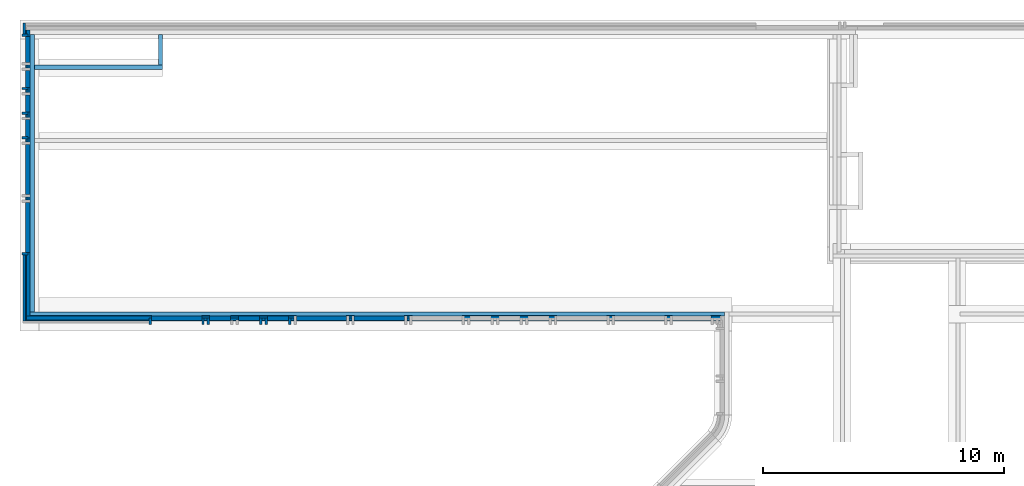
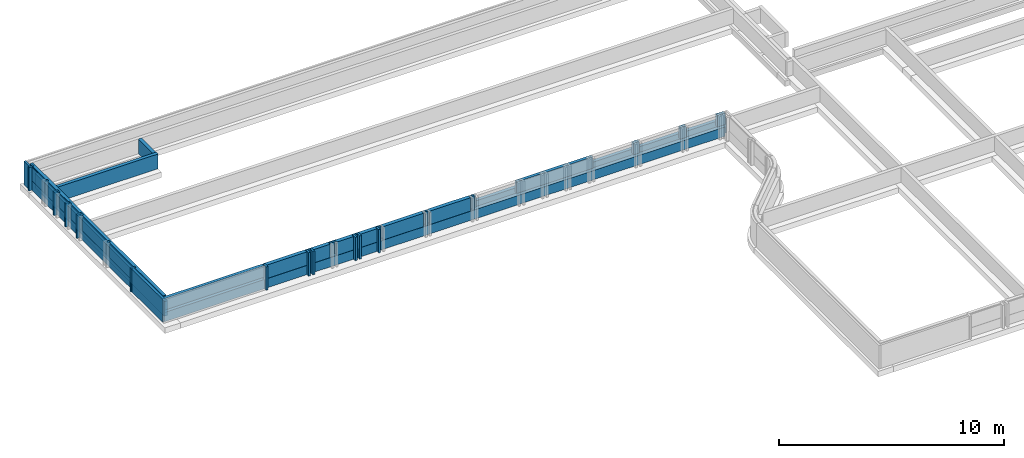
# One storey, part 6 of 15: 44 walls, 10 openings.
"""IFC2X3 building model written with IfcOpenShell, lengths in millimetres."""

from ifc_helpers import new_model, entity, si_unit, converted_unit, derived_unit, direction, frame, frame_2d, origin, place, context, subcontext, project, spatial, rectangle, extrude, material, layer, layer_set, layer_usage, type_object, element, save


model = new_model("IFC2X3")

# Units and contexts
model_context = context("Model", 3, precision=0.01, world=origin(), true_north=direction((6.123031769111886e-17, 1.0)))
body_context = subcontext(model_context, "Body", "Model", "MODEL_VIEW")
ifc_project = project(units=[si_unit("LENGTHUNIT", "METRE", prefix="MILLI"), si_unit("AREAUNIT", "SQUARE_METRE"), si_unit("VOLUMEUNIT", "CUBIC_METRE"), converted_unit("PLANEANGLEUNIT", "DEGREE", entity("IfcRatioMeasure", 0.017453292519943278), si_unit("PLANEANGLEUNIT", "RADIAN"), dimensions=[0, 0, 0, 0, 0, 0, 0]), si_unit("MASSUNIT", "GRAM", prefix="KILO"), derived_unit("MASSDENSITYUNIT", [(si_unit("MASSUNIT", "GRAM", prefix="KILO"), 1), (si_unit("LENGTHUNIT", "METRE"), -3)]), derived_unit("IONCONCENTRATIONUNIT", [(si_unit("MASSUNIT", "GRAM", prefix="KILO"), 1), (si_unit("LENGTHUNIT", "METRE"), -3)]), derived_unit("MOMENTOFINERTIAUNIT", [(si_unit("LENGTHUNIT", "METRE"), 4)]), si_unit("TIMEUNIT", "SECOND"), si_unit("FREQUENCYUNIT", "HERTZ"), si_unit("THERMODYNAMICTEMPERATUREUNIT", "DEGREE_CELSIUS"), derived_unit("THERMALTRANSMITTANCEUNIT", [(si_unit("MASSUNIT", "GRAM", prefix="KILO"), 1), (si_unit("THERMODYNAMICTEMPERATUREUNIT", "KELVIN"), -1), (si_unit("TIMEUNIT", "SECOND"), -3)]), derived_unit("THERMALCONDUCTANCEUNIT", [(si_unit("MASSUNIT", "GRAM", prefix="KILO"), 1), (si_unit("THERMODYNAMICTEMPERATUREUNIT", "KELVIN"), -1), (si_unit("TIMEUNIT", "SECOND"), -3), (si_unit("LENGTHUNIT", "METRE"), 1)]), derived_unit("VOLUMETRICFLOWRATEUNIT", [(si_unit("LENGTHUNIT", "METRE"), 3), (si_unit("TIMEUNIT", "SECOND"), -1)]), derived_unit("MASSFLOWRATEUNIT", [(si_unit("MASSUNIT", "GRAM", prefix="KILO"), 1), (si_unit("TIMEUNIT", "SECOND"), -1)]), derived_unit("ROTATIONALFREQUENCYUNIT", [(si_unit("TIMEUNIT", "SECOND"), -1)]), si_unit("ELECTRICCURRENTUNIT", "AMPERE"), si_unit("ELECTRICVOLTAGEUNIT", "VOLT"), si_unit("POWERUNIT", "WATT"), si_unit("FORCEUNIT", "NEWTON", prefix="KILO"), si_unit("ILLUMINANCEUNIT", "LUX"), si_unit("LUMINOUSFLUXUNIT", "LUMEN"), si_unit("LUMINOUSINTENSITYUNIT", "CANDELA"), derived_unit("USERDEFINED", [(si_unit("MASSUNIT", "GRAM", prefix="KILO"), -1), (si_unit("LENGTHUNIT", "METRE"), -2), (si_unit("TIMEUNIT", "SECOND"), 3), (si_unit("LUMINOUSFLUXUNIT", "LUMEN"), 1)]), derived_unit("USERDEFINED", [(si_unit("MASSUNIT", "GRAM", prefix="KILO"), 1), (si_unit("TIMEUNIT", "SECOND"), -3), (si_unit("LENGTHUNIT", "METRE"), 3), (si_unit("ELECTRICCURRENTUNIT", "AMPERE"), -2)]), derived_unit("SOUNDPOWERUNIT", [(si_unit("MASSUNIT", "GRAM", prefix="KILO"), 1), (si_unit("TIMEUNIT", "SECOND"), -3), (si_unit("LENGTHUNIT", "METRE"), 2)]), derived_unit("SOUNDPRESSUREUNIT", [(si_unit("MASSUNIT", "GRAM", prefix="KILO"), 1), (si_unit("LENGTHUNIT", "METRE"), -1), (si_unit("TIMEUNIT", "SECOND"), -2)]), derived_unit("LINEARVELOCITYUNIT", [(si_unit("LENGTHUNIT", "METRE"), 1), (si_unit("TIMEUNIT", "SECOND"), -1)]), si_unit("PRESSUREUNIT", "PASCAL"), derived_unit("USERDEFINED", [(si_unit("MASSUNIT", "GRAM", prefix="KILO"), 1), (si_unit("LENGTHUNIT", "METRE"), -2), (si_unit("TIMEUNIT", "SECOND"), -2)]), derived_unit("LINEARFORCEUNIT", [(si_unit("MASSUNIT", "GRAM", prefix="KILO"), 1), (si_unit("TIMEUNIT", "SECOND"), -2)]), derived_unit("PLANARFORCEUNIT", [(si_unit("MASSUNIT", "GRAM", prefix="KILO"), 1), (si_unit("LENGTHUNIT", "METRE"), -1), (si_unit("TIMEUNIT", "SECOND"), -2)]), derived_unit("SPECIFICHEATCAPACITYUNIT", [(si_unit("THERMODYNAMICTEMPERATUREUNIT", "KELVIN"), -1), (si_unit("LENGTHUNIT", "METRE"), 2), (si_unit("TIMEUNIT", "SECOND"), -2)]), derived_unit("HEATINGVALUEUNIT", [(si_unit("LENGTHUNIT", "METRE"), 2), (si_unit("TIMEUNIT", "SECOND"), -2)]), derived_unit("VAPORPERMEABILITYUNIT", [(si_unit("LENGTHUNIT", "METRE"), -1), (si_unit("TIMEUNIT", "SECOND"), 1)]), derived_unit("DYNAMICVISCOSITYUNIT", [(si_unit("MASSUNIT", "GRAM", prefix="KILO"), 1), (si_unit("TIMEUNIT", "SECOND"), -1), (si_unit("LENGTHUNIT", "METRE"), -1)]), derived_unit("THERMALEXPANSIONCOEFFICIENTUNIT", [(si_unit("THERMODYNAMICTEMPERATUREUNIT", "KELVIN"), -1)]), derived_unit("MODULUSOFELASTICITYUNIT", [(si_unit("MASSUNIT", "GRAM", prefix="KILO"), 1), (si_unit("LENGTHUNIT", "METRE"), -1), (si_unit("TIMEUNIT", "SECOND"), -2)]), derived_unit("ISOTHERMALMOISTURECAPACITYUNIT", [(si_unit("LENGTHUNIT", "METRE"), 3), (si_unit("MASSUNIT", "GRAM", prefix="KILO"), -1)]), derived_unit("MOISTUREDIFFUSIVITYUNIT", [(si_unit("TIMEUNIT", "SECOND"), -1), (si_unit("LENGTHUNIT", "METRE"), 2)])], contexts=[model_context])

# Site, building, storey
site_placement = place(None, frame((0.0, 300.0, 0.0)))
site = spatial("IfcSite", under=ifc_project, at=site_placement, Name="<Kadastrale nummers>", CompositionType="ELEMENT")
building_placement = place(site_placement, origin())
building = spatial("IfcBuilding", under=site, at=building_placement, CompositionType="ELEMENT")
storey_placement = place(building_placement, frame((0.0, 0.0, -1570.0)))
storey = spatial("IfcBuildingStorey", under=building, at=storey_placement, Name="-1 fundering", CompositionType="ELEMENT", Elevation=-1570.0)

# Walls
ifc_material_1 = material(Name="ISR_Metselwerk")
ifc_layer_1 = layer(ifc_material_1, 100.0)
ifc_layer_set_1 = layer_set([ifc_layer_1], Name="Basic Wall:21_DAT_metselwerk_100")
ifc_layer_usage_1 = layer_usage(ifc_layer_set_1, "AXIS2", "POSITIVE", -50.0)
wall_type_1 = type_object("IfcWallType", Name="Basic Wall:21_DAT_metselwerk_100", PredefinedType="STANDARD", material=ifc_layer_set_1)
wall_1_placement = place(storey_placement, frame((2675.0, 50175.0, 300.0), z_axis=(0.0, 0.0, 1.0), x_axis=(0.0, -1.0, 0.0)))
element("IfcWallStandardCase", 1, at=wall_1_placement, inside=storey, type_object=wall_type_1, material=ifc_layer_usage_1, Name="Basic Wall:21_DAT_metselwerk_100", ObjectType="Basic Wall:21_DAT_metselwerk_100", context=body_context, shape_type="SweptSolid", body=[
    extrude(rectangle(XDim=450.0000000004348, YDim=100.0, at=frame_2d((225.0000000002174, -2.4868995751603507e-14), x_axis=(-1.0, 0.0))), origin(), (0.0, 0.0, 1.0), 1270.0000000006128),
])
wall_2_placement = place(storey_placement, frame((2675.0, 40560.0, 300.0), z_axis=(0.0, 0.0, 1.0), x_axis=(0.0, -1.0, 0.0)))
element("IfcWallStandardCase", 2, at=wall_2_placement, inside=storey, type_object=wall_type_1, material=ifc_layer_usage_1, Name="Basic Wall:21_DAT_metselwerk_100", ObjectType="Basic Wall:21_DAT_metselwerk_100", context=body_context, shape_type="SweptSolid", body=[
    extrude(rectangle(XDim=2735.0000000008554, YDim=100.0, at=frame_2d((1367.5000000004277, -1.1368683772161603e-13), x_axis=(-1.0, 0.0))), origin(), (0.0, 0.0, 1.0), 1270.0000000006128),
])
wall_3_placement = place(storey_placement, frame((10140.0, 37890.0, 300.0)))
element("IfcWallStandardCase", 3, at=wall_3_placement, inside=storey, type_object=wall_type_1, material=ifc_layer_usage_1, Name="Basic Wall:21_DAT_metselwerk_100", ObjectType="Basic Wall:21_DAT_metselwerk_100", context=body_context, shape_type="SweptSolid", body=[
    extrude(rectangle(XDim=120.0000000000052, YDim=100.00000000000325, at=frame_2d((60.0000000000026, 0.0), x_axis=(-1.0, 0.0))), origin(), (0.0, 0.0, 1.0), 1270.0000000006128),
])
for number, where, z_axis, x_axis, name in (
    (4, (2790.0, 48435.0, 300.0), (0.0, 0.0, 1.0), (0.0, -1.0, 0.0), "Basic Wall:21_DAT_metselwerk_100"),
    (5, (2790.0, 47410.0, 300.0), (0.0, 0.0, 1.0), (0.0, -1.0, 0.0), "Basic Wall:21_DAT_metselwerk_100"),
    (6, (2790.0, 46385.0, 300.0), (0.0, 0.0, 1.0), (0.0, -1.0, 0.0), "Basic Wall:21_DAT_metselwerk_100"),
    (7, (2790.0, 45360.0, 300.0), (0.0, 0.0, 1.0), (0.0, -1.0, 0.0), "Basic Wall:21_DAT_metselwerk_100"),
):
    element("IfcWallStandardCase", number, at=place(storey_placement, frame(where, z_axis=z_axis, x_axis=x_axis)), inside=storey, type_object=wall_type_1, material=ifc_layer_usage_1, Name=name, ObjectType="Basic Wall:21_DAT_metselwerk_100", context=body_context, shape_type="SweptSolid", body=[
        extrude(rectangle(XDim=119.9999999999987, YDim=100.0, at=frame_2d((59.99999999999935, 1.1723955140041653e-13), x_axis=(-1.0, 0.0))), origin(), (0.0, 0.0, 1.0), 1270.0000000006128),
    ])
wall_4_placement = place(storey_placement, frame((2790.0, 42960.0, 300.0), z_axis=(0.0, 0.0, 1.0), x_axis=(0.0, -1.0, 0.0)))
element("IfcWallStandardCase", 8, at=wall_4_placement, inside=storey, type_object=wall_type_1, material=ifc_layer_usage_1, Name="Basic Wall:21_DAT_metselwerk_100", ObjectType="Basic Wall:21_DAT_metselwerk_100", context=body_context, shape_type="SweptSolid", body=[
    extrude(rectangle(XDim=119.99999999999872, YDim=100.0, at=frame_2d((59.99999999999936, 6.394884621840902e-14), x_axis=(-1.0, 0.0))), origin(), (0.0, 0.0, 1.0), 1270.0000000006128),
])

# Wall, opening
wall_5_placement = place(storey_placement, frame((11240.0, 37890.0, 300.0)))
wall_5 = element("IfcWallStandardCase", 9, at=wall_5_placement, inside=storey, type_object=wall_type_1, material=ifc_layer_usage_1, Name="Basic Wall:21_DAT_metselwerk_100", ObjectType="Basic Wall:21_DAT_metselwerk_100", context=body_context, shape_type="SweptSolid", body=[
    extrude(rectangle(XDim=320.00000000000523, YDim=100.00000000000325, at=frame_2d((160.00000000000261, 0.0), x_axis=(-1.0, 0.0))), origin(), (0.0, 0.0, 1.0), 1270.0000000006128),
])
opening_1_placement = place(storey_placement, frame((11240.0, 37890.0, 300.0)))
element("IfcOpeningElement", 10, at=opening_1_placement, cuts=wall_5, Name="Basic Wall:21_DAT_metselwerk_100:1", ObjectType="Opening", context=body_context, shape_type="SweptSolid", body=[
    extrude(rectangle(XDim=25.00000000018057, YDim=99.99999999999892, at=frame_2d((2.1662671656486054e-12, -1.0835776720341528e-12), x_axis=(1.0, 0.0))), frame((270.0, -37.499999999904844, 600.0), z_axis=(0.0, 0.0, 1.0), x_axis=(0.0, -1.0, 0.0)), (0.0, 0.0, 1.0), 625.0000000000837),
])

# Walls
wall_6_placement = place(storey_placement, frame((12540.0, 37890.0, 300.0)))
element("IfcWallStandardCase", 11, at=wall_6_placement, inside=storey, type_object=wall_type_1, material=ifc_layer_usage_1, Name="Basic Wall:21_DAT_metselwerk_100", ObjectType="Basic Wall:21_DAT_metselwerk_100", context=body_context, shape_type="SweptSolid", body=[
    extrude(rectangle(XDim=120.0000000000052, YDim=100.00000000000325, at=frame_2d((60.0000000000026, 0.0), x_axis=(-1.0, 0.0))), origin(), (0.0, 0.0, 1.0), 1270.0000000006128),
])
for number, where, name in (
    (12, (13740.0, 37890.0, 300.0), "Basic Wall:21_DAT_metselwerk_100"),
    (13, (16140.0, 37890.0, 300.0), "Basic Wall:21_DAT_metselwerk_100"),
    (14, (18540.0, 37890.0, 300.0), "Basic Wall:21_DAT_metselwerk_100"),
):
    element("IfcWallStandardCase", number, at=place(storey_placement, frame(where)), inside=storey, type_object=wall_type_1, material=ifc_layer_usage_1, Name=name, ObjectType="Basic Wall:21_DAT_metselwerk_100", context=body_context, shape_type="SweptSolid", body=[
        extrude(rectangle(XDim=120.00000000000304, YDim=100.00000000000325, at=frame_2d((60.00000000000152, 0.0), x_axis=(-1.0, 0.0))), origin(), (0.0, 0.0, 1.0), 1270.0000000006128),
    ])
ifc_layer_usage_2 = layer_usage(ifc_layer_set_1, "AXIS2", "NEGATIVE", 50.0)
for number, where, z_axis, x_axis, name in (
    (15, (2840.0, 47460.0, 300.0), (0.0, 0.0, 1.0), (-1.0, 0.0, 0.0), "Basic Wall:21_DAT_metselwerk_100"),
    (16, (2840.0, 46435.0, 300.0), (0.0, 0.0, 1.0), (-1.0, 0.0, 0.0), "Basic Wall:21_DAT_metselwerk_100"),
    (17, (2840.0, 45410.0, 300.0), (0.0, 0.0, 1.0), (-1.0, 0.0, 0.0), "Basic Wall:21_DAT_metselwerk_100"),
):
    element("IfcWallStandardCase", number, at=place(storey_placement, frame(where, z_axis=z_axis, x_axis=x_axis)), inside=storey, type_object=wall_type_1, material=ifc_layer_usage_2, Name=name, ObjectType="Basic Wall:21_DAT_metselwerk_100", context=body_context, shape_type="SweptSolid", body=[
        extrude(rectangle(XDim=264.9999999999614, YDim=99.9999999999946, at=frame_2d((132.4999999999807, -1.2789769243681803e-13), x_axis=(-1.0, 0.0))), origin(), (0.0, 0.0, 1.0), 1270.0000000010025),
    ])
wall_7_placement = place(storey_placement, frame((10090.0, 37940.0, 300.0), z_axis=(0.0, 0.0, 1.0), x_axis=(0.0, -1.0, 0.0)))
element("IfcWallStandardCase", 18, at=wall_7_placement, inside=storey, type_object=wall_type_1, material=ifc_layer_usage_2, Name="Basic Wall:21_DAT_metselwerk_100", ObjectType="Basic Wall:21_DAT_metselwerk_100", context=body_context, shape_type="SweptSolid", body=[
    extrude(rectangle(XDim=264.9999999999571, YDim=99.99999999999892, at=frame_2d((132.49999999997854, 9.947598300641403e-14), x_axis=(-1.0, 0.0))), origin(), (0.0, 0.0, 1.0), 1270.0000000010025),
])
wall_8_placement = place(storey_placement, frame((10310.0, 37940.0, 300.0), z_axis=(0.0, 0.0, 1.0), x_axis=(0.0, -1.0, 0.0)))
element("IfcWallStandardCase", 19, at=wall_8_placement, inside=storey, type_object=wall_type_1, material=ifc_layer_usage_2, Name="Basic Wall:21_DAT_metselwerk_100", ObjectType="Basic Wall:21_DAT_metselwerk_100", context=body_context, shape_type="SweptSolid", body=[
    extrude(rectangle(XDim=264.9999999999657, YDim=99.99999999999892, at=frame_2d((132.49999999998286, 1.0089706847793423e-12), x_axis=(-1.0, 0.0))), origin(), (0.0, 0.0, 1.0), 1270.0000000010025),
])
wall_9_placement = place(storey_placement, frame((12490.0, 37940.0, 300.0), z_axis=(0.0, 0.0, 1.0), x_axis=(0.0, -1.0, 0.0)))
element("IfcWallStandardCase", 20, at=wall_9_placement, inside=storey, type_object=wall_type_1, material=ifc_layer_usage_2, Name="Basic Wall:21_DAT_metselwerk_100", ObjectType="Basic Wall:21_DAT_metselwerk_100", context=body_context, shape_type="SweptSolid", body=[
    extrude(rectangle(XDim=264.9999999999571, YDim=99.99999999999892, at=frame_2d((132.49999999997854, 9.947598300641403e-14), x_axis=(-1.0, 0.0))), origin(), (0.0, 0.0, 1.0), 1270.0000000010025),
])
wall_10_placement = place(storey_placement, frame((12710.0, 37940.0, 300.0), z_axis=(0.0, 0.0, 1.0), x_axis=(0.0, -1.0, 0.0)))
element("IfcWallStandardCase", 21, at=wall_10_placement, inside=storey, type_object=wall_type_1, material=ifc_layer_usage_2, Name="Basic Wall:21_DAT_metselwerk_100", ObjectType="Basic Wall:21_DAT_metselwerk_100", context=body_context, shape_type="SweptSolid", body=[
    extrude(rectangle(XDim=264.9999999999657, YDim=99.99999999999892, at=frame_2d((132.49999999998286, 1.0089706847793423e-12), x_axis=(-1.0, 0.0))), origin(), (0.0, 0.0, 1.0), 1270.0000000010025),
])
wall_11_placement = place(storey_placement, frame((13690.0, 37940.0, 300.0), z_axis=(0.0, 0.0, 1.0), x_axis=(0.0, -1.0, 0.0)))
element("IfcWallStandardCase", 22, at=wall_11_placement, inside=storey, type_object=wall_type_1, material=ifc_layer_usage_2, Name="Basic Wall:21_DAT_metselwerk_100", ObjectType="Basic Wall:21_DAT_metselwerk_100", context=body_context, shape_type="SweptSolid", body=[
    extrude(rectangle(XDim=264.9999999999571, YDim=99.99999999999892, at=frame_2d((132.49999999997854, 9.947598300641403e-14), x_axis=(-1.0, 0.0))), origin(), (0.0, 0.0, 1.0), 1270.0000000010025),
])
wall_12_placement = place(storey_placement, frame((7910.0, 37940.0, 300.0), z_axis=(0.0, 0.0, 1.0), x_axis=(0.0, -1.0, 0.0)))
element("IfcWallStandardCase", 23, at=wall_12_placement, inside=storey, type_object=wall_type_1, material=ifc_layer_usage_2, Name="Basic Wall:21_DAT_metselwerk_100", ObjectType="Basic Wall:21_DAT_metselwerk_100", context=body_context, shape_type="SweptSolid", body=[
    extrude(rectangle(XDim=264.9999999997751, YDim=99.99999999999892, at=frame_2d((132.49999999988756, -2.0961010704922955e-13), x_axis=(-1.0, 0.0))), origin(), (0.0, 0.0, 1.0), 1270.0000000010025),
])
wall_13_placement = place(storey_placement, frame((2840.0, 49675.0, 300.0), z_axis=(0.0, 0.0, 1.0), x_axis=(-1.0, 0.0, 0.0)))
element("IfcWallStandardCase", 24, at=wall_13_placement, inside=storey, type_object=wall_type_1, material=ifc_layer_usage_2, Name="Basic Wall:21_DAT_metselwerk_100", ObjectType="Basic Wall:21_DAT_metselwerk_100", context=body_context, shape_type="SweptSolid", body=[
    extrude(rectangle(XDim=264.9999999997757, YDim=99.9999999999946, at=frame_2d((132.49999999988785, 7.176481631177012e-13), x_axis=(-1.0, 0.0))), origin(), (0.0, 0.0, 1.0), 1270.0000000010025),
])
wall_14_placement = place(storey_placement, frame((2840.0, 40610.0, 300.0), z_axis=(0.0, 0.0, 1.0), x_axis=(-1.0, 0.0, 0.0)))
element("IfcWallStandardCase", 25, at=wall_14_placement, inside=storey, type_object=wall_type_1, material=ifc_layer_usage_1, Name="Basic Wall:21_DAT_metselwerk_100", ObjectType="Basic Wall:21_DAT_metselwerk_100", context=body_context, shape_type="SweptSolid", body=[
    extrude(rectangle(XDim=264.9999999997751, YDim=99.9999999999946, at=frame_2d((132.49999999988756, 3.517186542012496e-13), x_axis=(-1.0, 0.0))), origin(), (0.0, 0.0, 1.0), 1270.0000000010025),
])
ifc_material_2 = material(Name="ISR_Gips")
ifc_layer_2 = layer(ifc_material_2, 1.0)
ifc_material_3 = material(Name="ISR_Kalkzandsteen")
ifc_layer_3 = layer(ifc_material_3, 173.0)
ifc_layer_4 = layer(ifc_material_2, 1.0)
ifc_layer_set_2 = layer_set([ifc_layer_2, ifc_layer_3, ifc_layer_4], Name="Basic Wall:28_DAT_kalkzandsteen_175mm")
ifc_layer_usage_3 = layer_usage(ifc_layer_set_2, "AXIS2", "NEGATIVE", 87.49999999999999)
wall_type_2 = type_object("IfcWallType", Name="Basic Wall:28_DAT_kalkzandsteen_175mm", PredefinedType="STANDARD", material=ifc_layer_set_2)
wall_15_placement = place(storey_placement, frame((31725.03691673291, 38112.4999999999, 300.0), z_axis=(0.0, 0.0, 1.0), x_axis=(-1.0, 0.0, 0.0)))
element("IfcWallStandardCase", 26, at=wall_15_placement, inside=storey, type_object=wall_type_2, material=ifc_layer_usage_3, Name="Basic Wall:28_DAT_kalkzandsteen_175mm", ObjectType="Basic Wall:28_DAT_kalkzandsteen_175mm", context=body_context, shape_type="SweptSolid", body=[
    extrude(rectangle(XDim=28800.03691673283, YDim=175.00000000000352, at=frame_2d((14400.018458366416, 0.0), x_axis=(-1.0, 0.0))), origin(), (0.0, 0.0, 1.0), 800.0000000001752),
])
wall_16_placement = place(storey_placement, frame((3012.50000000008, 38200.0, 300.0), z_axis=(0.0, 0.0, 1.0), x_axis=(0.0, 1.0, 0.0)))
element("IfcWallStandardCase", 27, at=wall_16_placement, inside=storey, type_object=wall_type_2, material=ifc_layer_usage_3, Name="Basic Wall:28_DAT_kalkzandsteen_175mm", ObjectType="Basic Wall:28_DAT_kalkzandsteen_175mm", context=body_context, shape_type="SweptSolid", body=[
    extrude(rectangle(XDim=11500.000000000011, YDim=175.00000000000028, at=frame_2d((5750.0000000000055, 1.2789769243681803e-13), x_axis=(-1.0, 0.0))), origin(), (0.0, 0.0, 1.0), 800.0000000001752),
])
wall_17_placement = place(storey_placement, frame((3100.0, 48342.49999999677, 300.0)))
element("IfcWallStandardCase", 28, at=wall_17_placement, inside=storey, type_object=wall_type_2, material=ifc_layer_usage_3, Name="Basic Wall:28_DAT_kalkzandsteen_175mm", ObjectType="Basic Wall:28_DAT_kalkzandsteen_175mm", context=body_context, shape_type="SweptSolid", body=[
    extrude(rectangle(XDim=5311.000000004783, YDim=174.99999999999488, at=frame_2d((2655.5000000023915, -3.197442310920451e-13), x_axis=(-1.0, 0.0))), origin(), (0.0, 0.0, 1.0), 800.0000000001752),
])
wall_18_placement = place(storey_placement, frame((8323.500000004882, 49700.0, 300.0), z_axis=(0.0, 0.0, 1.0), x_axis=(0.0, -1.0, 0.0)))
element("IfcWallStandardCase", 29, at=wall_18_placement, inside=storey, type_object=wall_type_2, material=ifc_layer_usage_3, Name="Basic Wall:28_DAT_kalkzandsteen_175mm", ObjectType="Basic Wall:28_DAT_kalkzandsteen_175mm", context=body_context, shape_type="SweptSolid", body=[
    extrude(rectangle(XDim=1270.0000000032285, YDim=174.9999999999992, at=frame_2d((635.0000000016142, -9.237055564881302e-14), x_axis=(-1.0, 0.0))), origin(), (0.0, 0.0, 1.0), 800.0000000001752),
])

# Wall, openings
ifc_material_4 = material(Name="ISR_Isolatie")
ifc_layer_5 = layer(ifc_material_4, 160.0)
ifc_layer_set_3 = layer_set([ifc_layer_5], Name="Basic Wall:21_DAT_isolatie minerale wol_160")
ifc_layer_usage_4 = layer_usage(ifc_layer_set_3, "AXIS2", "NEGATIVE", 80.0)
wall_type_3 = type_object("IfcWallType", Name="Basic Wall:21_DAT_isolatie minerale wol_160", PredefinedType="STANDARD", material=ifc_layer_set_3)
wall_19_placement = place(storey_placement, frame((31565.036916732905, 37945.0, 900.0), z_axis=(0.0, 0.0, 1.0), x_axis=(-1.0, 0.0, 0.0)))
wall_19 = element("IfcWallStandardCase", 30, at=wall_19_placement, inside=storey, type_object=wall_type_3, material=ifc_layer_usage_4, Name="Basic Wall:21_DAT_isolatie minerale wol_160", ObjectType="Basic Wall:21_DAT_isolatie minerale wol_160", context=body_context, shape_type="SweptSolid", body=[
    extrude(rectangle(XDim=28800.036916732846, YDim=159.99999999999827, at=frame_2d((14400.018458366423, 0.0), x_axis=(-1.0, 0.0))), origin(), (0.0, 0.0, 1.0), 625.0000000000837),
])
opening_2_placement = place(wall_19_placement, origin())
element("IfcOpeningElement", 31, at=opening_2_placement, cuts=wall_19, Name="Basic Wall:21_DAT_isolatie minerale wol_160", ObjectType="Opening", context=body_context, shape_type="SweptSolid", body=[
    extrude(rectangle(XDim=730.0000000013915, YDim=2079.999999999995, at=frame_2d((0.0, 0.0), x_axis=(0.0, 1.0))), frame((14165.036916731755, -232.40000000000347, 265.0), z_axis=(0.0, 1.0, 0.0), x_axis=(-1.0, 0.0, 0.0)), (0.0, 0.0, 1.0), 464.7999999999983),
])
opening_3_placement = place(wall_19_placement, origin())
element("IfcOpeningElement", 32, at=opening_3_placement, cuts=wall_19, Name="Basic Wall:21_DAT_isolatie minerale wol_160", ObjectType="Opening", context=body_context, shape_type="SweptSolid", body=[
    extrude(rectangle(XDim=725.0000000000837, YDim=1594.999999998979, at=frame_2d((0.0, 0.0), x_axis=(0.0, 1.0))), frame((1207.5369167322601, -232.3999999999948, 262.50000000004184), z_axis=(0.0, 1.0, 0.0), x_axis=(-1.0, 0.0, 0.0)), (0.0, 0.0, 1.0), 464.7999999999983),
])
opening_4_placement = place(wall_19_placement, origin())
element("IfcOpeningElement", 33, at=opening_4_placement, cuts=wall_19, Name="Basic Wall:21_DAT_isolatie minerale wol_160", ObjectType="Opening", context=body_context, shape_type="SweptSolid", body=[
    extrude(rectangle(XDim=730.0000000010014, YDim=2080.0000000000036, at=frame_2d((4.320099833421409e-12, 0.0), x_axis=(0.0, 1.0))), frame((3365.0369167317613, -232.40000000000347, 265.0), z_axis=(0.0, 1.0, 0.0), x_axis=(-1.0, 0.0, 0.0)), (0.0, 0.0, 1.0), 464.7999999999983),
])
opening_5_placement = place(wall_19_placement, origin())
element("IfcOpeningElement", 34, at=opening_5_placement, cuts=wall_19, Name="Basic Wall:21_DAT_isolatie minerale wol_160", ObjectType="Opening", context=body_context, shape_type="SweptSolid", body=[
    extrude(rectangle(XDim=730.0000000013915, YDim=2079.999999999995, at=frame_2d((0.0, 0.0), x_axis=(0.0, 1.0))), frame((5765.03691673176, -232.39999999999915, 265.0), z_axis=(0.0, 1.0, 0.0), x_axis=(-1.0, 0.0, 0.0)), (0.0, 0.0, 1.0), 464.7999999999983),
])
opening_6_placement = place(wall_19_placement, origin())
element("IfcOpeningElement", 35, at=opening_6_placement, cuts=wall_19, Name="Basic Wall:21_DAT_isolatie minerale wol_160", ObjectType="Opening", context=body_context, shape_type="SweptSolid", body=[
    extrude(rectangle(XDim=730.0000000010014, YDim=2080.0000000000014, at=frame_2d((1.1368683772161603e-12, 0.0), x_axis=(0.0, 1.0))), frame((11765.036916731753, -232.3999999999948, 265.0), z_axis=(0.0, 1.0, 0.0), x_axis=(-1.0, 0.0, 0.0)), (0.0, 0.0, 1.0), 464.7999999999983),
])
opening_7_placement = place(wall_19_placement, origin())
element("IfcOpeningElement", 36, at=opening_7_placement, cuts=wall_19, Name="Basic Wall:21_DAT_isolatie minerale wol_160", ObjectType="Opening", context=body_context, shape_type="SweptSolid", body=[
    extrude(rectangle(XDim=730.0000000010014, YDim=2079.999999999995, at=frame_2d((0.0, 0.0), x_axis=(0.0, 1.0))), frame((16565.036916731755, -232.39999999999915, 265.0), z_axis=(0.0, 1.0, 0.0), x_axis=(-1.0, 0.0, 0.0)), (0.0, 0.0, 1.0), 464.7999999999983),
])
opening_8_placement = place(wall_19_placement, origin())
element("IfcOpeningElement", 37, at=opening_8_placement, cuts=wall_19, Name="Basic Wall:21_DAT_isolatie minerale wol_160", ObjectType="Opening", context=body_context, shape_type="SweptSolid", body=[
    extrude(rectangle(XDim=725.0000000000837, YDim=879.9999999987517, at=frame_2d((0.0, 0.0), x_axis=(0.0, 1.0))), frame((20765.03691673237, -232.39999999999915, 262.50000000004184), z_axis=(0.0, 1.0, 0.0), x_axis=(-1.0, 0.0, 0.0)), (0.0, 0.0, 1.0), 464.7999999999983),
])
opening_9_placement = place(wall_19_placement, origin())
element("IfcOpeningElement", 38, at=opening_9_placement, cuts=wall_19, Name="Basic Wall:21_DAT_isolatie minerale wol_160", ObjectType="Opening", context=body_context, shape_type="SweptSolid", body=[
    extrude(rectangle(XDim=730.0000000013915, YDim=2080.000000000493, at=frame_2d((0.0, 0.0), x_axis=(0.0, 1.0))), frame((22565.03691673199, -232.39999999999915, 265.0), z_axis=(0.0, 1.0, 0.0), x_axis=(-1.0, 0.0, 0.0)), (0.0, 0.0, 1.0), 464.7999999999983),
])

# Wall, opening
wall_20_placement = place(storey_placement, frame((2845.0, 38025.0, 900.0), z_axis=(0.0, 0.0, 1.0), x_axis=(0.0, 1.0, 0.0)))
wall_20 = element("IfcWallStandardCase", 39, at=wall_20_placement, inside=storey, type_object=wall_type_3, material=ifc_layer_usage_4, Name="Basic Wall:21_DAT_isolatie minerale wol_160", ObjectType="Basic Wall:21_DAT_isolatie minerale wol_160", context=body_context, shape_type="SweptSolid", body=[
    extrude(rectangle(XDim=11849.999999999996, YDim=160.00000000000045, at=frame_2d((5924.999999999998, 0.0), x_axis=(-1.0, 0.0))), origin(), (0.0, 0.0, 1.0), 670.0000000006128),
])
opening_10_placement = place(wall_20_placement, origin())
element("IfcOpeningElement", 40, at=opening_10_placement, cuts=wall_20, Name="Basic Wall:21_DAT_isolatie minerale wol_160", ObjectType="Opening", context=body_context, shape_type="SweptSolid", body=[
    extrude(rectangle(XDim=730.0000000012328, YDim=1090.0000000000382, at=frame_2d((4.376943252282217e-12, 0.0), x_axis=(0.0, 1.0))), frame((11055.0, -232.39999999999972, 265.0), z_axis=(0.0, 1.0, 0.0), x_axis=(-1.0, 0.0, 0.0)), (0.0, 0.0, 1.0), 464.7999999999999),
])

# Walls
ifc_material_5 = material(Name="ISR_Beton_prefab")
ifc_layer_6 = layer(ifc_material_5, 15.0)
ifc_layer_7 = layer(ifc_material_4, 175.0)
ifc_layer_set_4 = layer_set([ifc_layer_6, ifc_layer_7], Name="Basic Wall:21_DAT_gevelplint 175")
ifc_layer_usage_5 = layer_usage(ifc_layer_set_4, "AXIS2", "POSITIVE", -95.00000000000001)
wall_type_4 = type_object("IfcWallType", Name="Basic Wall:21_DAT_gevelplint 175", PredefinedType="STANDARD", material=ifc_layer_set_4)
wall_21_placement = place(storey_placement, frame((2830.0, 49625.0, 800.0), z_axis=(0.0, 0.0, 1.0), x_axis=(0.0, -1.0, 0.0)))
element("IfcWallStandardCase", 41, at=wall_21_placement, inside=storey, type_object=wall_type_4, material=ifc_layer_usage_5, Name="Basic Wall:21_DAT_gevelplint 175", ObjectType="Basic Wall:21_DAT_gevelplint 175", context=body_context, shape_type="SweptSolid", body=[
    extrude(rectangle(XDim=1090.0000000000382, YDim=190.0000000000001, at=frame_2d((545.0000000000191, 0.0), x_axis=(-1.0, 0.0))), origin(), (0.0, 0.0, 1.0), 730.0000000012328),
])
wall_22_placement = place(storey_placement, frame((16360.0, 37930.0, 800.0)))
element("IfcWallStandardCase", 42, at=wall_22_placement, inside=storey, type_object=wall_type_4, material=ifc_layer_usage_5, Name="Basic Wall:21_DAT_gevelplint 175", ObjectType="Basic Wall:21_DAT_gevelplint 175", context=body_context, shape_type="SweptSolid", body=[
    extrude(rectangle(XDim=2079.999999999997, YDim=190.0000000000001, at=frame_2d((1039.9999999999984, 1.2647660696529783e-12), x_axis=(-1.0, 0.0))), origin(), (0.0, 0.0, 1.0), 730.0000000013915),
])
wall_23_placement = place(storey_placement, frame((10360.0, 37930.0, 800.0)))
element("IfcWallStandardCase", 43, at=wall_23_placement, inside=storey, type_object=wall_type_4, material=ifc_layer_usage_5, Name="Basic Wall:21_DAT_gevelplint 175", ObjectType="Basic Wall:21_DAT_gevelplint 175", context=body_context, shape_type="SweptSolid", body=[
    extrude(rectangle(XDim=879.9999999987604, YDim=190.0000000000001, at=frame_2d((439.9999999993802, 0.0), x_axis=(-1.0, 0.0))), origin(), (0.0, 0.0, 1.0), 725.0000000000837),
])
wall_24_placement = place(storey_placement, frame((13960.0, 37930.0, 800.0)))
element("IfcWallStandardCase", 44, at=wall_24_placement, inside=storey, type_object=wall_type_4, material=ifc_layer_usage_5, Name="Basic Wall:21_DAT_gevelplint 175", ObjectType="Basic Wall:21_DAT_gevelplint 175", context=body_context, shape_type="SweptSolid", body=[
    extrude(rectangle(XDim=2080.0000000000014, YDim=190.0000000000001, at=frame_2d((1040.0000000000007, 0.0), x_axis=(-1.0, 0.0))), origin(), (0.0, 0.0, 1.0), 730.0000000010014),
])
wall_25_placement = place(storey_placement, frame((2830.0, 45140.0, 800.0), z_axis=(0.0, 0.0, 1.0), x_axis=(0.0, -1.0, 0.0)))
element("IfcWallStandardCase", 45, at=wall_25_placement, inside=storey, type_object=wall_type_4, material=ifc_layer_usage_5, Name="Basic Wall:21_DAT_gevelplint 175", ObjectType="Basic Wall:21_DAT_gevelplint 175", context=body_context, shape_type="SweptSolid", body=[
    extrude(rectangle(XDim=2080.0000000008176, YDim=190.0000000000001, at=frame_2d((1040.0000000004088, 1.0658141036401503e-13), x_axis=(-1.0, 0.0))), origin(), (0.0, 0.0, 1.0), 730.0000000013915),
])
wall_26_placement = place(storey_placement, frame((7960.0, 37930.0, 800.0)))
element("IfcWallStandardCase", 46, at=wall_26_placement, inside=storey, type_object=wall_type_4, material=ifc_layer_usage_5, Name="Basic Wall:21_DAT_gevelplint 175", ObjectType="Basic Wall:21_DAT_gevelplint 175", context=body_context, shape_type="SweptSolid", body=[
    extrude(rectangle(XDim=2080.000000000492, YDim=190.0000000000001, at=frame_2d((1040.000000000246, 0.0), x_axis=(-1.0, 0.0))), origin(), (0.0, 0.0, 1.0), 730.0000000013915),
])
wall_27_placement = place(storey_placement, frame((2830.0013767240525, 48215.0, 800.0), z_axis=(0.0, 0.0, 1.0), x_axis=(0.0, -1.0, 0.0)))
element("IfcWallStandardCase", 47, at=wall_27_placement, inside=storey, type_object=wall_type_4, material=ifc_layer_usage_5, Name="Basic Wall:21_DAT_gevelplint 175", ObjectType="Basic Wall:21_DAT_gevelplint 175", context=body_context, shape_type="SweptSolid", body=[
    extrude(rectangle(XDim=704.9999999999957, YDim=190.0000000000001, at=frame_2d((352.49999999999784, 1.1368683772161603e-13), x_axis=(-1.0, 0.0))), origin(), (0.0, 0.0, 1.0), 730.0000000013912),
])
wall_28_placement = place(storey_placement, frame((2830.0013767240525, 47190.0, 800.0), z_axis=(0.0, 0.0, 1.0), x_axis=(0.0, -1.0, 0.0)))
element("IfcWallStandardCase", 48, at=wall_28_placement, inside=storey, type_object=wall_type_4, material=ifc_layer_usage_5, Name="Basic Wall:21_DAT_gevelplint 175", ObjectType="Basic Wall:21_DAT_gevelplint 175", context=body_context, shape_type="SweptSolid", body=[
    extrude(rectangle(XDim=704.999999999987, YDim=190.0000000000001, at=frame_2d((352.4999999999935, 1.1368683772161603e-13), x_axis=(-1.0, 0.0))), origin(), (0.0, 0.0, 1.0), 725.0000000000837),
])
wall_29_placement = place(storey_placement, frame((2830.0013767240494, 46165.0, 800.0), z_axis=(0.0, 0.0, 1.0), x_axis=(0.0, -1.0, 0.0)))
element("IfcWallStandardCase", 49, at=wall_29_placement, inside=storey, type_object=wall_type_4, material=ifc_layer_usage_5, Name="Basic Wall:21_DAT_gevelplint 175", ObjectType="Basic Wall:21_DAT_gevelplint 175", context=body_context, shape_type="SweptSolid", body=[
    extrude(rectangle(XDim=754.9999999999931, YDim=190.0000000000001, at=frame_2d((377.49999999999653, 1.0658141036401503e-13), x_axis=(-1.0, 0.0))), origin(), (0.0, 0.0, 1.0), 730.0000000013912),
])
wall_30_placement = place(storey_placement, frame((2830.0, 42740.0, 800.0), z_axis=(0.0, 0.0, 1.0), x_axis=(0.0, -1.0, 0.0)))
element("IfcWallStandardCase", 50, at=wall_30_placement, inside=storey, type_object=wall_type_4, material=ifc_layer_usage_5, Name="Basic Wall:21_DAT_gevelplint 175", ObjectType="Basic Wall:21_DAT_gevelplint 175", context=body_context, shape_type="SweptSolid", body=[
    extrude(rectangle(XDim=2079.9999999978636, YDim=190.0000000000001, at=frame_2d((1039.9999999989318, 2.2026824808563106e-13), x_axis=(-1.0, 0.0))), origin(), (0.0, 0.0, 1.0), 730.0000000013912),
])
wall_31_placement = place(storey_placement, frame((11560.0, 37930.0, 800.0)))
element("IfcWallStandardCase", 51, at=wall_31_placement, inside=storey, type_object=wall_type_4, material=ifc_layer_usage_5, Name="Basic Wall:21_DAT_gevelplint 175", ObjectType="Basic Wall:21_DAT_gevelplint 175", context=body_context, shape_type="SweptSolid", body=[
    extrude(rectangle(XDim=879.9999999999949, YDim=190.0000000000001, at=frame_2d((439.99999999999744, 0.0), x_axis=(-1.0, 0.0))), origin(), (0.0, 0.0, 1.0), 725.0000000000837),
])
wall_32_placement = place(storey_placement, frame((12760.0, 37930.0, 800.0)))
element("IfcWallStandardCase", 52, at=wall_32_placement, inside=storey, type_object=wall_type_4, material=ifc_layer_usage_5, Name="Basic Wall:21_DAT_gevelplint 175", ObjectType="Basic Wall:21_DAT_gevelplint 175", context=body_context, shape_type="SweptSolid", body=[
    extrude(rectangle(XDim=880.0000000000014, YDim=190.0000000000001, at=frame_2d((440.0000000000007, 0.0), x_axis=(-1.0, 0.0))), origin(), (0.0, 0.0, 1.0), 725.0000000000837),
])
ifc_material_6 = material(Name="ISR_Speci ihwg(1)")
ifc_layer_8 = layer(ifc_material_6, 195.0)
ifc_layer_set_5 = layer_set([ifc_layer_8], Name="Basic Wall:28_DAT_ihw specie")
ifc_layer_usage_6 = layer_usage(ifc_layer_set_5, "AXIS2", "NEGATIVE", 97.5)
wall_type_5 = type_object("IfcWallType", Name="Basic Wall:28_DAT_ihw specie", PredefinedType="STANDARD", material=ifc_layer_set_5)
wall_33_placement = place(storey_placement, frame((31525.0369167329, 37922.49999999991, 300.0), z_axis=(0.0, 0.0, 1.0), x_axis=(-1.0, 0.0, 0.0)))
element("IfcWallStandardCase", 53, at=wall_33_placement, inside=storey, type_object=wall_type_5, material=ifc_layer_usage_6, Name="Basic Wall:28_DAT_ihw specie", ObjectType="Basic Wall:28_DAT_ihw specie", context=body_context, shape_type="SweptSolid", body=[
    extrude(rectangle(XDim=28800.036916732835, YDim=194.99999999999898, at=frame_2d((14400.018458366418, 0.0), x_axis=(-1.0, 0.0))), origin(), (0.0, 0.0, 1.0), 500.00000000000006),
])
wall_34_placement = place(storey_placement, frame((2822.500000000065, 38020.0, 300.0), z_axis=(0.0, 0.0, 1.0), x_axis=(0.0, 1.0, 0.0)))
element("IfcWallStandardCase", 54, at=wall_34_placement, inside=storey, type_object=wall_type_5, material=ifc_layer_usage_6, Name="Basic Wall:28_DAT_ihw specie", ObjectType="Basic Wall:28_DAT_ihw specie", context=body_context, shape_type="SweptSolid", body=[
    extrude(rectangle(XDim=11859.999999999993, YDim=195.00000000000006, at=frame_2d((5929.999999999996, 1.4210854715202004e-14), x_axis=(-1.0, 0.0))), origin(), (0.0, 0.0, 1.0), 500.00000000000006),
])

save(model, "model.ifc")
